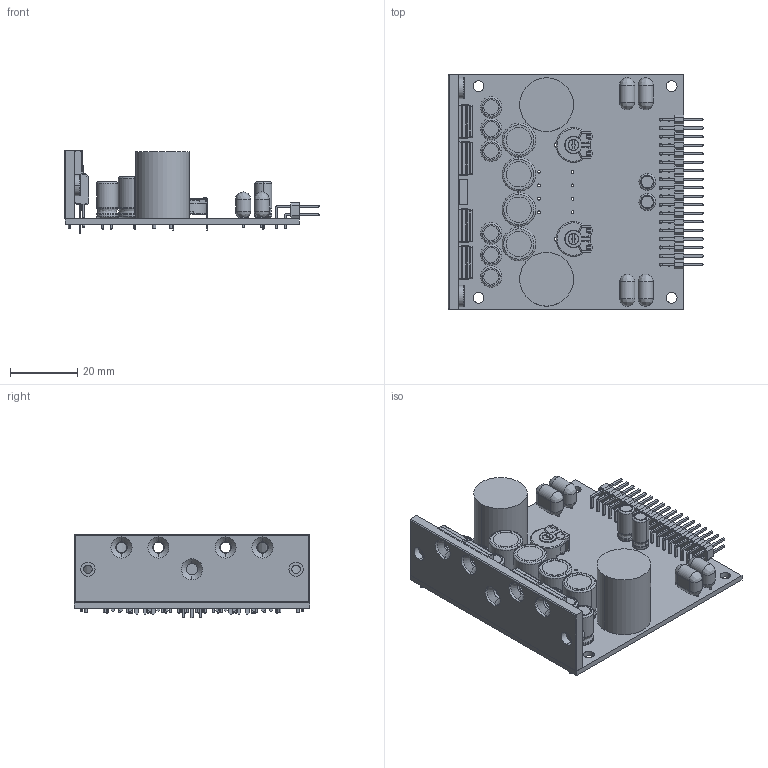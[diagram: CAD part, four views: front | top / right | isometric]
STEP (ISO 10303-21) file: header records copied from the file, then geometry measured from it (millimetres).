
FILE_DESCRIPTION (( 'STEP AP214' ), '1' );
FILE_NAME ('UcD102 OEM 01xx.STEP', '2020-11-17T12:44:10', ( '' ), ( '' ), 'SwSTEP 2.0', 'SolidWorks 2017', '' );
FILE_SCHEMA (( 'AUTOMOTIVE_DESIGN' ));
Length unit declared in the file: millimetre
Products named in the file (46): 98788576; C14; ECAP_6.3x11_2.5; ecqv_7.5; Con_2x18p_MCon_2x16p_MH_2,54mm_PCB._2,54mm_PCB; C39; C26; TO220FP_VERTICAL1; C72; C30; C47; Board; 98788320; C5; Hsink_SAA7L2WH3T1; ECAP_5x11_2; 98788192; C49; UcD102 OEM 01xx; 98788704; Hsink_SAA7L2WH3T1_STEEL_PRESSNUT1; Extruded1; Cylinder1; C10; C22; Free-Models; R144; Hsink_SAA7L2WH3T1_COPPER_PIN1; 520792992; C24; L6; T43; PT10LV; ECAP_10x12.5_5; C73; C38; HS1; C13; Extruded3; R95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
Assembly tree (72 placements, depth 4):
  UcD102 OEM 01xx
    C72
      ECAP_5x11_2
    C73
      ECAP_5x11_2
    Board
    T43
      98788576  x4
        Extruded1
      98788320  x3
        Extruded3
      98788192
        Extruded4
    Free-Models
      TO220FP_VERTICAL1  x4
    L6
      98788704
        Cylinder1
      520792992  x2
        Cylinder
    L2
      520792992  x2
        Cylinder
      98788704
        Cylinder1
    HS1
      Hsink_SAA7L2WH3T1
        Hsink_SAA7L2WH3T1_COPPER_PIN1  x2
        Hsink_SAA7L2WH3T1_STEEL_PRESSNUT1  x2
        Hsink_SAA7L2WH3T2
    C47
      ECAP_6.3x11_2.5
    C39
      ecqv_7.5
    C38
      ecqv_7.5
    C35
      ECAP_6.3x11_2.5
    C14
      ecqv_7.5
    C13
      ecqv_7.5
    C10
      ECAP_6.3x11_2.5
    C5
      ECAP_6.3x11_2.5
    C1
      ECAP_10x12.5_5
    R95
      PT10LV
    C24
      ECAP_10x12.5_5
    C30
      ECAP_6.3x11_2.5
    C26
      ECAP_10x12.5_5
    C22
      ECAP_6.3x11_2.5
    R144
      PT10LV
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Bounding box: 76.04 x 70 x 25 mm (x, y, z)
Volume: 30311.8 mm3; surface area: 28639.2 mm2
Topology: 42 solids, 96 shells, 2543 faces, 6568 edges, 4135 vertices
Faces by surface type: plane 1423, cylinder 788, bspline 308, cone 24
Entity records: 70007 total; most frequent: CARTESIAN_POINT 11070, DIRECTION 8279, ORIENTED_EDGE 7994, EDGE_CURVE 4239, LINE 3161, VECTOR 3161, VERTEX_POINT 2773, AXIS2_PLACEMENT_3D 2559
